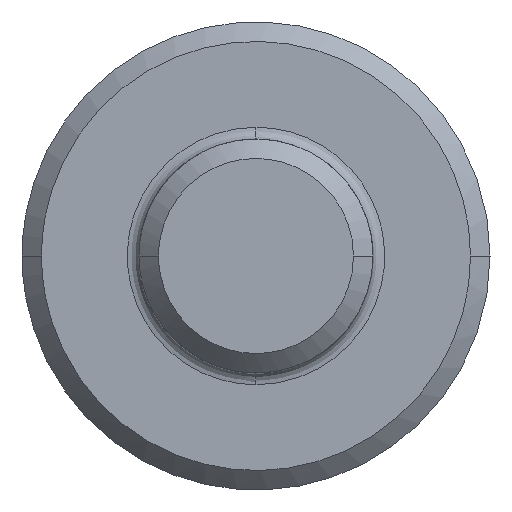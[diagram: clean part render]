
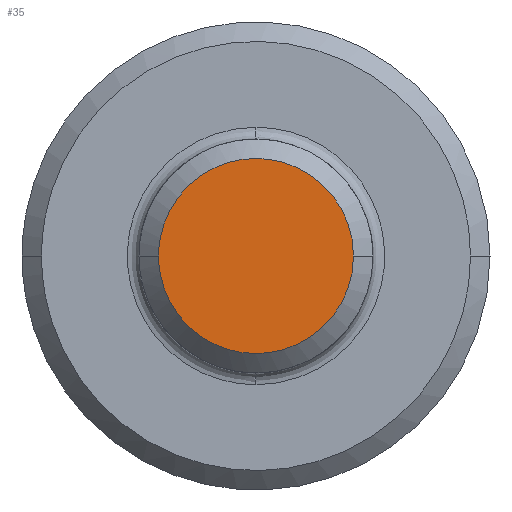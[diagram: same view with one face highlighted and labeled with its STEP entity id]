
A CAD part, left-side view. The second image highlights one B-rep face of the part: STEP entity #35.
In plain terms, the highlighted planar face has unit normal (-1, 0, 0).
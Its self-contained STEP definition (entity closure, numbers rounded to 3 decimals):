
#35=ADVANCED_FACE('',(#57),#628,.T.);
#57=FACE_OUTER_BOUND('',#79,.T.);
#79=EDGE_LOOP('',(#134,#135));
#134=ORIENTED_EDGE('',*,*,#544,.T.);
#135=ORIENTED_EDGE('',*,*,#542,.F.);
#224=PCURVE('',#640,#316);
#226=PCURVE('',#628,#318);
#227=PCURVE('',#628,#319);
#228=PCURVE('',#641,#320);
#316=DEFINITIONAL_REPRESENTATION('',(#421),#1681);
#318=DEFINITIONAL_REPRESENTATION('',(#577),#1681);
#319=DEFINITIONAL_REPRESENTATION('',(#578),#1681);
#320=DEFINITIONAL_REPRESENTATION('',(#424),#1681);
#421=B_SPLINE_CURVE_WITH_KNOTS('',1,(#1476,#1477),.UNSPECIFIED.,.F.,.F.,
(2,2),(-4.142,-1.),.UNSPECIFIED.);
#424=B_SPLINE_CURVE_WITH_KNOTS('',1,(#1497,#1498),.UNSPECIFIED.,.F.,.F.,
(2,2),(5.142,8.283),.UNSPECIFIED.);
#496=SURFACE_CURVE('',#575,(#224,#227),.PCURVE_S1.);
#498=SURFACE_CURVE('',#576,(#226,#228),.PCURVE_S1.);
#542=EDGE_CURVE('',#627,#626,#496,.T.);
#544=EDGE_CURVE('',#627,#626,#498,.T.);
#575=(
BOUNDED_CURVE()
B_SPLINE_CURVE(2,(#1471,#1472,#1473,#1474,#1475),.UNSPECIFIED.,.F.,.F.)
B_SPLINE_CURVE_WITH_KNOTS((3,2,3),(-4.142,-2.571,-1.),
 .UNSPECIFIED.)
CURVE()
GEOMETRIC_REPRESENTATION_ITEM()
RATIONAL_B_SPLINE_CURVE((1.,0.707,1.,0.707,1.))
REPRESENTATION_ITEM('')
);
#576=(
BOUNDED_CURVE()
B_SPLINE_CURVE(2,(#1482,#1483,#1484,#1485,#1486),.UNSPECIFIED.,.F.,.F.)
B_SPLINE_CURVE_WITH_KNOTS((3,2,3),(5.142,6.712,8.283),
 .UNSPECIFIED.)
CURVE()
GEOMETRIC_REPRESENTATION_ITEM()
RATIONAL_B_SPLINE_CURVE((1.,0.707,1.,0.707,1.))
REPRESENTATION_ITEM('')
);
#577=(
BOUNDED_CURVE()
B_SPLINE_CURVE(2,(#1487,#1488,#1489,#1490,#1491),.UNSPECIFIED.,.F.,.F.)
B_SPLINE_CURVE_WITH_KNOTS((3,2,3),(5.142,6.712,8.283),
 .UNSPECIFIED.)
CURVE()
GEOMETRIC_REPRESENTATION_ITEM()
RATIONAL_B_SPLINE_CURVE((1.,0.707,1.,0.707,1.))
REPRESENTATION_ITEM('')
);
#578=(
BOUNDED_CURVE()
B_SPLINE_CURVE(2,(#1492,#1493,#1494,#1495,#1496),.UNSPECIFIED.,.F.,.F.)
B_SPLINE_CURVE_WITH_KNOTS((3,2,3),(-4.142,-2.571,-1.),
 .UNSPECIFIED.)
CURVE()
GEOMETRIC_REPRESENTATION_ITEM()
RATIONAL_B_SPLINE_CURVE((1.,0.707,1.,0.707,1.))
REPRESENTATION_ITEM('')
);
#626=VERTEX_POINT('',#1290);
#627=VERTEX_POINT('',#1291);
#628=PLANE('',#670);
#640=(
BOUNDED_SURFACE()
B_SPLINE_SURFACE(2,1,((#954,#955),(#956,#957),(#958,#959),(#960,#961),(#962,
#963),(#964,#965),(#966,#967),(#968,#969),(#970,#971)),.UNSPECIFIED.,.T.,
 .F.,.F.)
B_SPLINE_SURFACE_WITH_KNOTS((3,2,2,2,3),(2,2),(0.,1.571,3.142,
4.712,6.283),(0.,1.),.UNSPECIFIED.)
GEOMETRIC_REPRESENTATION_ITEM()
RATIONAL_B_SPLINE_SURFACE(((1.,1.),(0.707,0.707),
(1.,1.),(0.707,0.707),(1.,1.),(0.707,
0.707),(1.,1.),(0.707,0.707),(1.,1.)))
REPRESENTATION_ITEM('')
SURFACE()
);
#641=(
BOUNDED_SURFACE()
B_SPLINE_SURFACE(2,1,((#973,#974),(#975,#976),(#977,#978),(#979,#980),(#981,
#982),(#983,#984),(#985,#986),(#987,#988),(#989,#990)),.UNSPECIFIED.,.T.,
 .F.,.F.)
B_SPLINE_SURFACE_WITH_KNOTS((3,2,2,2,3),(2,2),(0.,1.571,3.142,
4.712,6.283),(0.,1.),.UNSPECIFIED.)
GEOMETRIC_REPRESENTATION_ITEM()
RATIONAL_B_SPLINE_SURFACE(((1.,1.),(0.707,0.707),
(1.,1.),(0.707,0.707),(1.,1.),(0.707,
0.707),(1.,1.),(0.707,0.707),(1.,1.)))
REPRESENTATION_ITEM('')
SURFACE()
);
#670=AXIS2_PLACEMENT_3D('',#972,#677,$);
#677=DIRECTION('',(-1.,0.,0.));
#954=CARTESIAN_POINT('',(-768.5,285.,30.));
#955=CARTESIAN_POINT('',(-764.257,289.243,30.));
#956=CARTESIAN_POINT('',(-768.5,285.,30.));
#957=CARTESIAN_POINT('',(-764.257,289.243,34.243));
#958=CARTESIAN_POINT('',(-768.5,285.,30.));
#959=CARTESIAN_POINT('',(-764.257,285.,34.243));
#960=CARTESIAN_POINT('',(-768.5,285.,30.));
#961=CARTESIAN_POINT('',(-764.257,280.757,34.243));
#962=CARTESIAN_POINT('',(-768.5,285.,30.));
#963=CARTESIAN_POINT('',(-764.257,280.757,30.));
#964=CARTESIAN_POINT('',(-768.5,285.,30.));
#965=CARTESIAN_POINT('',(-764.257,280.757,25.757));
#966=CARTESIAN_POINT('',(-768.5,285.,30.));
#967=CARTESIAN_POINT('',(-764.257,285.,25.757));
#968=CARTESIAN_POINT('',(-768.5,285.,30.));
#969=CARTESIAN_POINT('',(-764.257,289.243,25.757));
#970=CARTESIAN_POINT('',(-768.5,285.,30.));
#971=CARTESIAN_POINT('',(-764.257,289.243,30.));
#972=CARTESIAN_POINT('',(-766.,287.5,32.5));
#973=CARTESIAN_POINT('',(-768.5,285.,30.));
#974=CARTESIAN_POINT('',(-764.257,289.243,30.));
#975=CARTESIAN_POINT('',(-768.5,285.,30.));
#976=CARTESIAN_POINT('',(-764.257,289.243,34.243));
#977=CARTESIAN_POINT('',(-768.5,285.,30.));
#978=CARTESIAN_POINT('',(-764.257,285.,34.243));
#979=CARTESIAN_POINT('',(-768.5,285.,30.));
#980=CARTESIAN_POINT('',(-764.257,280.757,34.243));
#981=CARTESIAN_POINT('',(-768.5,285.,30.));
#982=CARTESIAN_POINT('',(-764.257,280.757,30.));
#983=CARTESIAN_POINT('',(-768.5,285.,30.));
#984=CARTESIAN_POINT('',(-764.257,280.757,25.757));
#985=CARTESIAN_POINT('',(-768.5,285.,30.));
#986=CARTESIAN_POINT('',(-764.257,285.,25.757));
#987=CARTESIAN_POINT('',(-768.5,285.,30.));
#988=CARTESIAN_POINT('',(-764.257,289.243,25.757));
#989=CARTESIAN_POINT('',(-768.5,285.,30.));
#990=CARTESIAN_POINT('',(-764.257,289.243,30.));
#1290=CARTESIAN_POINT('',(-766.,287.5,30.));
#1291=CARTESIAN_POINT('',(-766.,282.5,30.));
#1471=CARTESIAN_POINT('',(-766.,282.5,30.));
#1472=CARTESIAN_POINT('',(-766.,282.5,27.5));
#1473=CARTESIAN_POINT('',(-766.,285.,27.5));
#1474=CARTESIAN_POINT('',(-766.,287.5,27.5));
#1475=CARTESIAN_POINT('',(-766.,287.5,30.));
#1476=CARTESIAN_POINT('',(3.142,0.589));
#1477=CARTESIAN_POINT('',(6.283,0.589));
#1482=CARTESIAN_POINT('',(-766.,282.5,30.));
#1483=CARTESIAN_POINT('',(-766.,282.5,32.5));
#1484=CARTESIAN_POINT('',(-766.,285.,32.5));
#1485=CARTESIAN_POINT('',(-766.,287.5,32.5));
#1486=CARTESIAN_POINT('',(-766.,287.5,30.));
#1487=CARTESIAN_POINT('',(0.5,1.));
#1488=CARTESIAN_POINT('',(0.,1.));
#1489=CARTESIAN_POINT('',(0.,0.5));
#1490=CARTESIAN_POINT('',(0.,0.));
#1491=CARTESIAN_POINT('',(0.5,0.));
#1492=CARTESIAN_POINT('',(0.5,1.));
#1493=CARTESIAN_POINT('',(1.,1.));
#1494=CARTESIAN_POINT('',(1.,0.5));
#1495=CARTESIAN_POINT('',(1.,0.));
#1496=CARTESIAN_POINT('',(0.5,0.));
#1497=CARTESIAN_POINT('',(3.142,0.589));
#1498=CARTESIAN_POINT('',(0.,0.589));
#1681=(
GEOMETRIC_REPRESENTATION_CONTEXT(2)
PARAMETRIC_REPRESENTATION_CONTEXT()
REPRESENTATION_CONTEXT('pspace','')
);
